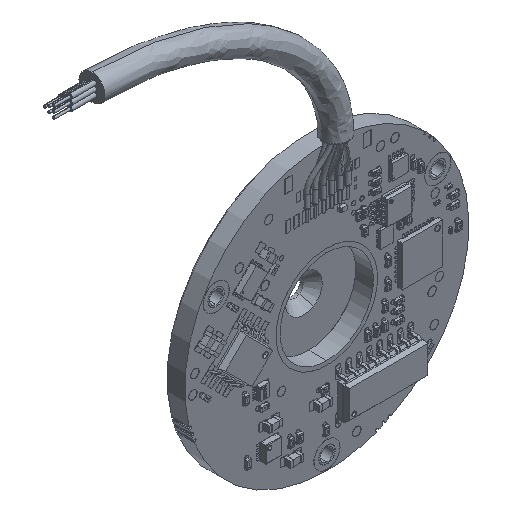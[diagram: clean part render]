
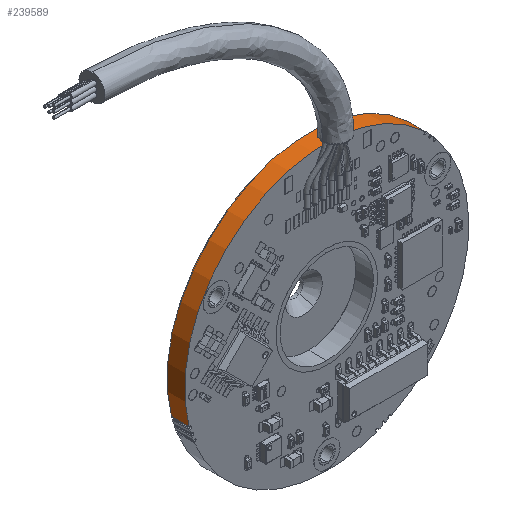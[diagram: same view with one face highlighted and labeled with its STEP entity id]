
A CAD part, isometric view. The second image highlights one B-rep face of the part: STEP entity #239589.
In plain terms, the highlighted cylindrical face has radius 17.5 mm (diameter 35 mm), a partial arc.
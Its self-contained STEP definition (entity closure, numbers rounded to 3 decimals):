
#5786 = EDGE_CURVE ( 'NONE', #21209, #178536, #335287, .T. ) ;
#9263 = VECTOR ( 'NONE', #192308, 1000. ) ;
#21209 = VERTEX_POINT ( 'NONE', #238732 ) ;
#24648 = CYLINDRICAL_SURFACE ( 'NONE', #228101, 17.5 ) ;
#28218 = ORIENTED_EDGE ( 'NONE', *, *, #137380, .F. ) ;
#31502 = DIRECTION ( 'NONE',  ( 0., 0., 1. ) ) ;
#34249 = CIRCLE ( 'NONE', #216889, 17.5 ) ;
#42579 = CARTESIAN_POINT ( 'NONE',  ( 12.086, 0., 12.656 ) ) ;
#53788 = CARTESIAN_POINT ( 'NONE',  ( 12.086, 2.201, 12.656 ) ) ;
#56294 = CARTESIAN_POINT ( 'NONE',  ( 0., 0., 0. ) ) ;
#114740 = DIRECTION ( 'NONE',  ( 0., -1., 0. ) ) ;
#137380 = EDGE_CURVE ( 'NONE', #21209, #358840, #34249, .T. ) ;
#178536 = VERTEX_POINT ( 'NONE', #179566 ) ;
#179566 = CARTESIAN_POINT ( 'NONE',  ( -16.943, 0., -4.379 ) ) ;
#184772 = CARTESIAN_POINT ( 'NONE',  ( 12.086, 2.17, 12.656 ) ) ;
#192308 = DIRECTION ( 'NONE',  ( 0., -1., 0. ) ) ;
#198193 = DIRECTION ( 'NONE',  ( 0., -1., 0. ) ) ;
#207795 = VECTOR ( 'NONE', #114740, 1000. ) ;
#215105 = ORIENTED_EDGE ( 'NONE', *, *, #233432, .T. ) ;
#216889 = AXIS2_PLACEMENT_3D ( 'NONE', #375704, #230776, #373817 ) ;
#223344 = ORIENTED_EDGE ( 'NONE', *, *, #346511, .F. ) ;
#228101 = AXIS2_PLACEMENT_3D ( 'NONE', #259281, #198193, #314450 ) ;
#230776 = DIRECTION ( 'NONE',  ( 0., 1., 0. ) ) ;
#233432 = EDGE_CURVE ( 'NONE', #178536, #355308, #373064, .T. ) ;
#238732 = CARTESIAN_POINT ( 'NONE',  ( -16.943, 2.17, -4.379 ) ) ;
#238902 = AXIS2_PLACEMENT_3D ( 'NONE', #56294, #260435, #31502 ) ;
#239589 = ADVANCED_FACE ( 'NONE', ( #371698 ), #24648, .T. ) ;
#245347 = ORIENTED_EDGE ( 'NONE', *, *, #5786, .T. ) ;
#259281 = CARTESIAN_POINT ( 'NONE',  ( 0., 2.17, 0. ) ) ;
#260435 = DIRECTION ( 'NONE',  ( 0., 1., 0. ) ) ;
#313082 = LINE ( 'NONE', #53788, #207795 ) ;
#314217 = CARTESIAN_POINT ( 'NONE',  ( -16.943, 2.201, -4.379 ) ) ;
#314450 = DIRECTION ( 'NONE',  ( 0., 0., -1. ) ) ;
#330320 = EDGE_LOOP ( 'NONE', ( #215105, #223344, #28218, #245347 ) ) ;
#335287 = LINE ( 'NONE', #314217, #9263 ) ;
#346511 = EDGE_CURVE ( 'NONE', #358840, #355308, #313082, .T. ) ;
#355308 = VERTEX_POINT ( 'NONE', #42579 ) ;
#358840 = VERTEX_POINT ( 'NONE', #184772 ) ;
#371698 = FACE_OUTER_BOUND ( 'NONE', #330320, .T. ) ;
#373064 = CIRCLE ( 'NONE', #238902, 17.5 ) ;
#373817 = DIRECTION ( 'NONE',  ( 0., 0., 1. ) ) ;
#375704 = CARTESIAN_POINT ( 'NONE',  ( 0., 2.17, 0. ) ) ;
